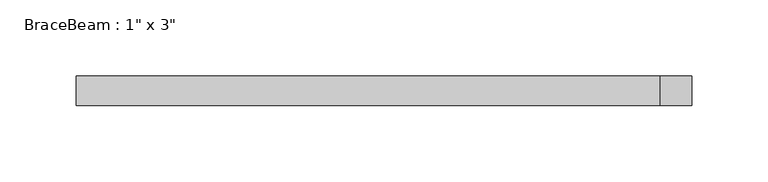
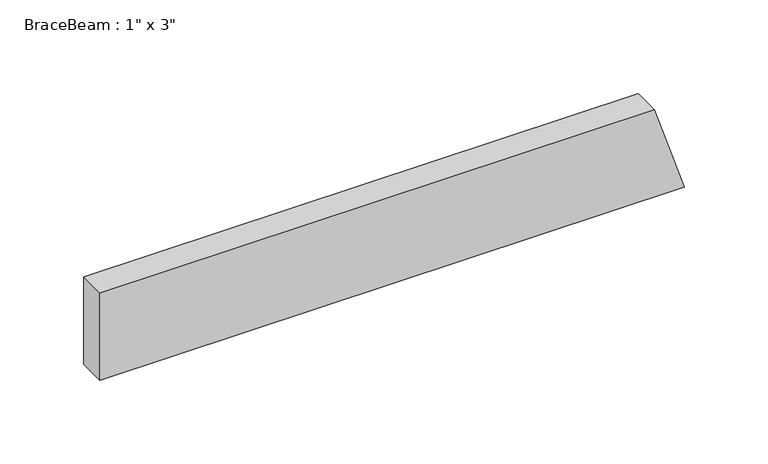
"""IFC4 building model written with IfcOpenShell, lengths in millimetres: beam geometry."""

from ifc_helpers import new_model, si_unit, origin, place, context, project, spatial, faceted_brep, source, transform, mapped, element, save


def beam_3bb925f9(model_context):
    return source(origin(), model_context, "Body", "Brep", [
        faceted_brep([(-196.7080361, -9.525, -31.75), (-196.7080361, 9.525, -31.75), (205.4225136, 9.525, -31.75), (205.4225136, -9.525, -31.75), (-196.7080361, 9.525, 31.75), (184.6968191, 9.525, 31.75), (195.0596664, 9.525, 0.0), (-196.7080361, -9.525, 31.75), (184.6968191, -9.525, 31.75), (195.0596664, -9.525, 0.0)], [[[0, 1, 2, 3]], [[1, 4, 5, 6, 2]], [[4, 7, 8, 5]], [[7, 0, 3, 9, 8]], [[7, 4, 1, 0]], [[5, 8, 9, 3, 2, 6]]]),
    ])


if __name__ == "__main__":
    model = new_model("IFC4")
    model_context = context("Model", 3, world=origin())
    ifc_project = project(units=[si_unit("LENGTHUNIT", "METRE", prefix="MILLI")], contexts=[model_context])
    site = spatial("IfcSite", under=ifc_project)
    building = spatial("IfcBuilding", under=site)
    placement = place(None, origin())
    beam_shape = beam_3bb925f9(model_context)
    element("IfcBeam", 1, ObjectType="BraceBeam : 1\" x 3\"", at=placement, inside=building, context=model_context, shape_type="MappedRepresentation", body=[
        mapped(beam_shape, transform((0.0, 0.0, 0.0), x_axis=(1.0, 0.0, 0.0), y_axis=(0.0, 1.0, 0.0), z_axis=(0.0, 0.0, 1.0))),
    ])
    save(model, "model.ifc")
